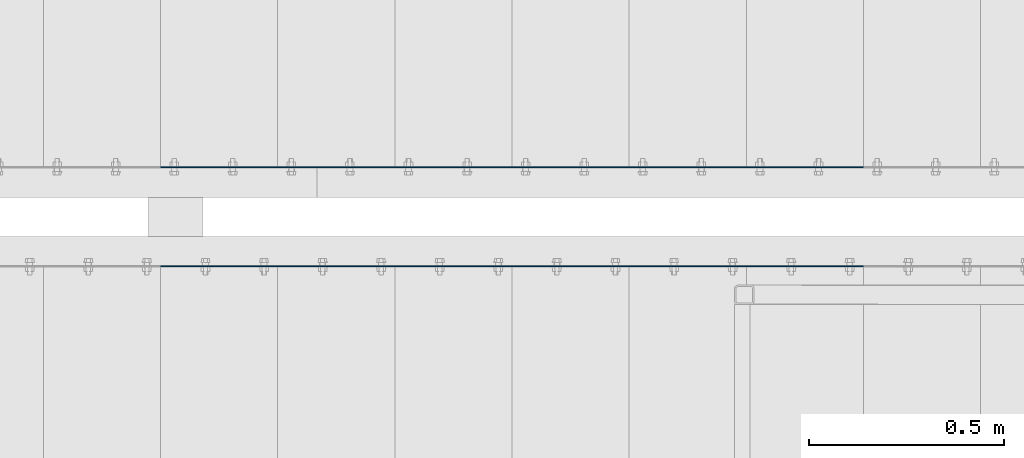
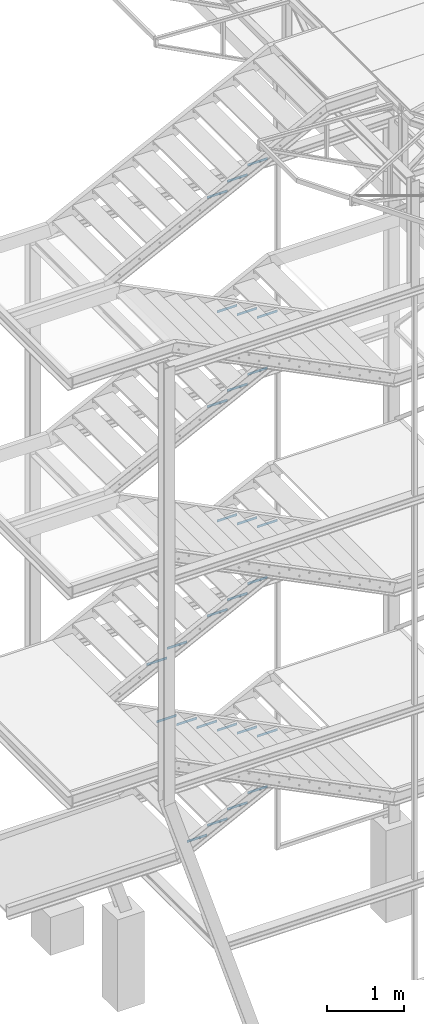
# One storey, part 65 of 132: 27 discrete accessories, 27 elements without a shape of their own.
"""IFC2X3 building model written with IfcOpenShell, lengths in millimetres."""

from ifc_helpers import new_model, si_unit, frame, origin_with_axes, origin_2d_with_axis, place, context, subcontext, project, spatial, rectangle, extrude, material, type_object, element, aggregate, save


model = new_model("IFC2X3")

# Units and contexts
model_context = context("Model", 3, precision=1e-05, world=origin_with_axes())
body_context = subcontext(model_context, "Body", "Model", "MODEL_VIEW")
ifc_project = project(units=[si_unit("LENGTHUNIT", "METRE", prefix="MILLI"), si_unit("AREAUNIT", "SQUARE_METRE"), si_unit("VOLUMEUNIT", "CUBIC_METRE"), si_unit("MASSUNIT", "GRAM", prefix="KILO"), si_unit("TIMEUNIT", "SECOND"), si_unit("PLANEANGLEUNIT", "RADIAN"), si_unit("SOLIDANGLEUNIT", "STERADIAN"), si_unit("THERMODYNAMICTEMPERATUREUNIT", "DEGREE_CELSIUS"), si_unit("LUMINOUSINTENSITYUNIT", "LUMEN")], contexts=[model_context])

# Site, building, storey
site_placement = place(None, origin_with_axes())
site = spatial("IfcSite", under=ifc_project, at=site_placement, Name="Budowa", CompositionType="ELEMENT")
building_placement = place(site_placement, origin_with_axes())
building = spatial("IfcBuilding", under=site, at=building_placement, Name="Undefined", CompositionType="ELEMENT")
storey_placement = place(building_placement, origin_with_axes())
storey = spatial("IfcBuildingStorey", under=building, at=storey_placement, Name="Undefined", CompositionType="ELEMENT", Elevation=0.0)

# Assembly, discrete accessory
assembly_1_placement = place(storey_placement, origin_with_axes())
assembly_1 = element("IfcElementAssembly", 1, at=assembly_1_placement, inside=storey, Name="Steel Assembly", AssemblyPlace="NOTDEFINED", PredefinedType="RIGID_FRAME")
ifc_material = material(Name="STEEL/S235JR")
discrete_accessory_type = type_object("IfcDiscreteAccessoryType", Name="ANGLE")
discrete_accessory_1_placement = place(assembly_1_placement, frame((-1720.00000008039, 9526.5000000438, 13379.9999999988), z_axis=(0.0, 1.0, 0.0), x_axis=(-1.0, 0.0, 0.0)))
discrete_accessory_1 = element("IfcDiscreteAccessory", 2, at=discrete_accessory_1_placement, type_object=discrete_accessory_type, material=ifc_material, Name="ANGLE", ObjectType="3*40", context=body_context, shape_type="SweptSolid", body=[
    extrude(rectangle(XDim=40.0, YDim=3.0, at=origin_2d_with_axis()), frame((300.0, 0.0, 0.0), z_axis=(-1.0, 0.0, 0.0), x_axis=(0.0, -1.0, 0.0)), (0.0, 0.0, 1.0), 300.0),
])
aggregate(assembly_1, [discrete_accessory_1])

assembly_2_placement = place(storey_placement, origin_with_axes())
assembly_2 = element("IfcElementAssembly", 3, at=assembly_2_placement, inside=storey, Name="Steel Assembly", AssemblyPlace="NOTDEFINED", PredefinedType="RIGID_FRAME")
discrete_accessory_2_placement = place(assembly_2_placement, frame((-2020.00000008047, 9526.5000000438, 13229.9999999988), z_axis=(0.0, 1.0, 0.0), x_axis=(-1.0, 0.0, 0.0)))
discrete_accessory_2 = element("IfcDiscreteAccessory", 4, at=discrete_accessory_2_placement, type_object=discrete_accessory_type, material=ifc_material, Name="ANGLE", ObjectType="3*40", context=body_context, shape_type="SweptSolid", body=[
    extrude(rectangle(XDim=40.0, YDim=3.0, at=origin_2d_with_axis()), frame((300.0, 0.0, 0.0), z_axis=(-1.0, 0.0, 0.0), x_axis=(0.0, -1.0, 0.0)), (0.0, 0.0, 1.0), 300.0),
])
aggregate(assembly_2, [discrete_accessory_2])

assembly_3_placement = place(storey_placement, origin_with_axes())
assembly_3 = element("IfcElementAssembly", 5, at=assembly_3_placement, inside=storey, Name="Steel Assembly", AssemblyPlace="NOTDEFINED", PredefinedType="RIGID_FRAME")
discrete_accessory_3_placement = place(assembly_3_placement, frame((-2320.00000008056, 9526.5000000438, 13079.9999999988), z_axis=(0.0, 1.0, 0.0), x_axis=(-1.0, 0.0, 0.0)))
discrete_accessory_3 = element("IfcDiscreteAccessory", 6, at=discrete_accessory_3_placement, type_object=discrete_accessory_type, material=ifc_material, Name="ANGLE", ObjectType="3*40", context=body_context, shape_type="SweptSolid", body=[
    extrude(rectangle(XDim=40.0, YDim=3.0, at=origin_2d_with_axis()), frame((300.0, 0.0, 0.0), z_axis=(-1.0, 0.0, 0.0), x_axis=(0.0, -1.0, 0.0)), (0.0, 0.0, 1.0), 300.0),
])
aggregate(assembly_3, [discrete_accessory_3])

assembly_4_placement = place(storey_placement, origin_with_axes())
assembly_4 = element("IfcElementAssembly", 7, at=assembly_4_placement, inside=storey, Name="Steel Assembly", AssemblyPlace="NOTDEFINED", PredefinedType="RIGID_FRAME")
discrete_accessory_4_placement = place(assembly_4_placement, frame((-2620.00000007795, 9273.50000004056, 11430.0000000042), z_axis=(0.0, -1.0, 0.0), x_axis=(1.0, 0.0, 0.0)))
discrete_accessory_4 = element("IfcDiscreteAccessory", 8, at=discrete_accessory_4_placement, type_object=discrete_accessory_type, material=ifc_material, Name="ANGLE", ObjectType="3*40", context=body_context, shape_type="SweptSolid", body=[
    extrude(rectangle(XDim=40.0, YDim=3.0, at=origin_2d_with_axis()), frame((300.0, 0.0, 0.0), z_axis=(-1.0, 0.0, 0.0), x_axis=(0.0, -1.0, 0.0)), (0.0, 0.0, 1.0), 300.0),
])
aggregate(assembly_4, [discrete_accessory_4])

assembly_5_placement = place(storey_placement, origin_with_axes())
assembly_5 = element("IfcElementAssembly", 9, at=assembly_5_placement, inside=storey, Name="Steel Assembly", AssemblyPlace="NOTDEFINED", PredefinedType="RIGID_FRAME")
discrete_accessory_5_placement = place(assembly_5_placement, frame((-2320.00000007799, 9273.50000004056, 11280.000000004), z_axis=(0.0, -1.0, 0.0), x_axis=(1.0, 0.0, 0.0)))
discrete_accessory_5 = element("IfcDiscreteAccessory", 10, at=discrete_accessory_5_placement, type_object=discrete_accessory_type, material=ifc_material, Name="ANGLE", ObjectType="3*40", context=body_context, shape_type="SweptSolid", body=[
    extrude(rectangle(XDim=40.0, YDim=3.0, at=origin_2d_with_axis()), frame((300.0, 0.0, 0.0), z_axis=(-1.0, 0.0, 0.0), x_axis=(0.0, -1.0, 0.0)), (0.0, 0.0, 1.0), 300.0),
])
aggregate(assembly_5, [discrete_accessory_5])

assembly_6_placement = place(storey_placement, origin_with_axes())
assembly_6 = element("IfcElementAssembly", 11, at=assembly_6_placement, inside=storey, Name="Steel Assembly", AssemblyPlace="NOTDEFINED", PredefinedType="RIGID_FRAME")
discrete_accessory_6_placement = place(assembly_6_placement, frame((-2020.00000007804, 9273.50000004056, 11130.0000000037), z_axis=(0.0, -1.0, 0.0), x_axis=(1.0, 0.0, 0.0)))
discrete_accessory_6 = element("IfcDiscreteAccessory", 12, at=discrete_accessory_6_placement, type_object=discrete_accessory_type, material=ifc_material, Name="ANGLE", ObjectType="3*40", context=body_context, shape_type="SweptSolid", body=[
    extrude(rectangle(XDim=40.0, YDim=3.0, at=origin_2d_with_axis()), frame((300.0, 0.0, 0.0), z_axis=(-1.0, 0.0, 0.0), x_axis=(0.0, -1.0, 0.0)), (0.0, 0.0, 1.0), 300.0),
])
aggregate(assembly_6, [discrete_accessory_6])

assembly_7_placement = place(storey_placement, origin_with_axes())
assembly_7 = element("IfcElementAssembly", 13, at=assembly_7_placement, inside=storey, Name="Steel Assembly", AssemblyPlace="NOTDEFINED", PredefinedType="RIGID_FRAME")
discrete_accessory_7_placement = place(assembly_7_placement, frame((-1720.00000008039, 9526.5000000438, 10079.9999999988), z_axis=(0.0, 1.0, 0.0), x_axis=(-1.0, 0.0, 0.0)))
discrete_accessory_7 = element("IfcDiscreteAccessory", 14, at=discrete_accessory_7_placement, type_object=discrete_accessory_type, material=ifc_material, Name="ANGLE", ObjectType="3*40", context=body_context, shape_type="SweptSolid", body=[
    extrude(rectangle(XDim=40.0, YDim=3.0, at=origin_2d_with_axis()), frame((300.0, 0.0, 0.0), z_axis=(-1.0, 0.0, 0.0), x_axis=(0.0, -1.0, 0.0)), (0.0, 0.0, 1.0), 300.0),
])
aggregate(assembly_7, [discrete_accessory_7])

assembly_8_placement = place(storey_placement, origin_with_axes())
assembly_8 = element("IfcElementAssembly", 15, at=assembly_8_placement, inside=storey, Name="Steel Assembly", AssemblyPlace="NOTDEFINED", PredefinedType="RIGID_FRAME")
discrete_accessory_8_placement = place(assembly_8_placement, frame((-2020.00000008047, 9526.5000000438, 9929.99999999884), z_axis=(0.0, 1.0, 0.0), x_axis=(-1.0, 0.0, 0.0)))
discrete_accessory_8 = element("IfcDiscreteAccessory", 16, at=discrete_accessory_8_placement, type_object=discrete_accessory_type, material=ifc_material, Name="ANGLE", ObjectType="3*40", context=body_context, shape_type="SweptSolid", body=[
    extrude(rectangle(XDim=40.0, YDim=3.0, at=origin_2d_with_axis()), frame((300.0, 0.0, 0.0), z_axis=(-1.0, 0.0, 0.0), x_axis=(0.0, -1.0, 0.0)), (0.0, 0.0, 1.0), 300.0),
])
aggregate(assembly_8, [discrete_accessory_8])

assembly_9_placement = place(storey_placement, origin_with_axes())
assembly_9 = element("IfcElementAssembly", 17, at=assembly_9_placement, inside=storey, Name="Steel Assembly", AssemblyPlace="NOTDEFINED", PredefinedType="RIGID_FRAME")
discrete_accessory_9_placement = place(assembly_9_placement, frame((-2320.00000008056, 9526.5000000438, 9779.99999999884), z_axis=(0.0, 1.0, 0.0), x_axis=(-1.0, 0.0, 0.0)))
discrete_accessory_9 = element("IfcDiscreteAccessory", 18, at=discrete_accessory_9_placement, type_object=discrete_accessory_type, material=ifc_material, Name="ANGLE", ObjectType="3*40", context=body_context, shape_type="SweptSolid", body=[
    extrude(rectangle(XDim=40.0, YDim=3.0, at=origin_2d_with_axis()), frame((300.0, 0.0, 0.0), z_axis=(-1.0, 0.0, 0.0), x_axis=(0.0, -1.0, 0.0)), (0.0, 0.0, 1.0), 300.0),
])
aggregate(assembly_9, [discrete_accessory_9])

assembly_10_placement = place(storey_placement, origin_with_axes())
assembly_10 = element("IfcElementAssembly", 19, at=assembly_10_placement, inside=storey, Name="Steel Assembly", AssemblyPlace="NOTDEFINED", PredefinedType="RIGID_FRAME")
discrete_accessory_10_placement = place(assembly_10_placement, frame((-2620.00000007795, 9273.50000004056, 8130.00000000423), z_axis=(0.0, -1.0, 0.0), x_axis=(1.0, 0.0, 0.0)))
discrete_accessory_10 = element("IfcDiscreteAccessory", 20, at=discrete_accessory_10_placement, type_object=discrete_accessory_type, material=ifc_material, Name="ANGLE", ObjectType="3*40", context=body_context, shape_type="SweptSolid", body=[
    extrude(rectangle(XDim=40.0, YDim=3.0, at=origin_2d_with_axis()), frame((300.0, 0.0, 0.0), z_axis=(-1.0, 0.0, 0.0), x_axis=(0.0, -1.0, 0.0)), (0.0, 0.0, 1.0), 300.0),
])
aggregate(assembly_10, [discrete_accessory_10])

assembly_11_placement = place(storey_placement, origin_with_axes())
assembly_11 = element("IfcElementAssembly", 21, at=assembly_11_placement, inside=storey, Name="Steel Assembly", AssemblyPlace="NOTDEFINED", PredefinedType="RIGID_FRAME")
discrete_accessory_11_placement = place(assembly_11_placement, frame((-2320.00000007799, 9273.50000004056, 7980.00000000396), z_axis=(0.0, -1.0, 0.0), x_axis=(1.0, 0.0, 0.0)))
discrete_accessory_11 = element("IfcDiscreteAccessory", 22, at=discrete_accessory_11_placement, type_object=discrete_accessory_type, material=ifc_material, Name="ANGLE", ObjectType="3*40", context=body_context, shape_type="SweptSolid", body=[
    extrude(rectangle(XDim=40.0, YDim=3.0, at=origin_2d_with_axis()), frame((300.0, 0.0, 0.0), z_axis=(-1.0, 0.0, 0.0), x_axis=(0.0, -1.0, 0.0)), (0.0, 0.0, 1.0), 300.0),
])
aggregate(assembly_11, [discrete_accessory_11])

assembly_12_placement = place(storey_placement, origin_with_axes())
assembly_12 = element("IfcElementAssembly", 23, at=assembly_12_placement, inside=storey, Name="Steel Assembly", AssemblyPlace="NOTDEFINED", PredefinedType="RIGID_FRAME")
discrete_accessory_12_placement = place(assembly_12_placement, frame((-2020.00000007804, 9273.50000004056, 7830.00000000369), z_axis=(0.0, -1.0, 0.0), x_axis=(1.0, 0.0, 0.0)))
discrete_accessory_12 = element("IfcDiscreteAccessory", 24, at=discrete_accessory_12_placement, type_object=discrete_accessory_type, material=ifc_material, Name="ANGLE", ObjectType="3*40", context=body_context, shape_type="SweptSolid", body=[
    extrude(rectangle(XDim=40.0, YDim=3.0, at=origin_2d_with_axis()), frame((300.0, 0.0, 0.0), z_axis=(-1.0, 0.0, 0.0), x_axis=(0.0, -1.0, 0.0)), (0.0, 0.0, 1.0), 300.0),
])
aggregate(assembly_12, [discrete_accessory_12])

assembly_13_placement = place(storey_placement, origin_with_axes())
assembly_13 = element("IfcElementAssembly", 25, at=assembly_13_placement, inside=storey, Name="Steel Assembly", AssemblyPlace="NOTDEFINED", PredefinedType="RIGID_FRAME")
discrete_accessory_13_placement = place(assembly_13_placement, frame((-1720.00000008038, 9526.5000000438, 6779.99999999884), z_axis=(0.0, 1.0, 0.0), x_axis=(-1.0, 0.0, 0.0)))
discrete_accessory_13 = element("IfcDiscreteAccessory", 26, at=discrete_accessory_13_placement, type_object=discrete_accessory_type, material=ifc_material, Name="ANGLE", ObjectType="3*40", context=body_context, shape_type="SweptSolid", body=[
    extrude(rectangle(XDim=40.0, YDim=3.0, at=origin_2d_with_axis()), frame((300.0, 0.0, 0.0), z_axis=(-1.0, 0.0, 0.0), x_axis=(0.0, -1.0, 0.0)), (0.0, 0.0, 1.0), 300.0),
])
aggregate(assembly_13, [discrete_accessory_13])

assembly_14_placement = place(storey_placement, origin_with_axes())
assembly_14 = element("IfcElementAssembly", 27, at=assembly_14_placement, inside=storey, Name="Steel Assembly", AssemblyPlace="NOTDEFINED", PredefinedType="RIGID_FRAME")
discrete_accessory_14_placement = place(assembly_14_placement, frame((-2020.00000008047, 9526.5000000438, 6629.99999999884), z_axis=(0.0, 1.0, 0.0), x_axis=(-1.0, 0.0, 0.0)))
discrete_accessory_14 = element("IfcDiscreteAccessory", 28, at=discrete_accessory_14_placement, type_object=discrete_accessory_type, material=ifc_material, Name="ANGLE", ObjectType="3*40", context=body_context, shape_type="SweptSolid", body=[
    extrude(rectangle(XDim=40.0, YDim=3.0, at=origin_2d_with_axis()), frame((300.0, 0.0, 0.0), z_axis=(-1.0, 0.0, 0.0), x_axis=(0.0, -1.0, 0.0)), (0.0, 0.0, 1.0), 300.0),
])
aggregate(assembly_14, [discrete_accessory_14])

assembly_15_placement = place(storey_placement, origin_with_axes())
assembly_15 = element("IfcElementAssembly", 29, at=assembly_15_placement, inside=storey, Name="Steel Assembly", AssemblyPlace="NOTDEFINED", PredefinedType="RIGID_FRAME")
discrete_accessory_15_placement = place(assembly_15_placement, frame((-2320.00000008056, 9526.5000000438, 6479.99999999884), z_axis=(0.0, 1.0, 0.0), x_axis=(-1.0, 0.0, 0.0)))
discrete_accessory_15 = element("IfcDiscreteAccessory", 30, at=discrete_accessory_15_placement, type_object=discrete_accessory_type, material=ifc_material, Name="ANGLE", ObjectType="3*40", context=body_context, shape_type="SweptSolid", body=[
    extrude(rectangle(XDim=40.0, YDim=3.0, at=origin_2d_with_axis()), frame((300.0, 0.0, 0.0), z_axis=(-1.0, 0.0, 0.0), x_axis=(0.0, -1.0, 0.0)), (0.0, 0.0, 1.0), 300.0),
])
aggregate(assembly_15, [discrete_accessory_15])

assembly_16_placement = place(storey_placement, origin_with_axes())
assembly_16 = element("IfcElementAssembly", 31, at=assembly_16_placement, inside=storey, Name="Steel Assembly", AssemblyPlace="NOTDEFINED", PredefinedType="RIGID_FRAME")
discrete_accessory_16_placement = place(assembly_16_placement, frame((-2920.00000008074, 9526.5000000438, 6179.99999999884), z_axis=(0.0, 1.0, 0.0), x_axis=(-1.0, 0.0, 0.0)))
discrete_accessory_16 = element("IfcDiscreteAccessory", 32, at=discrete_accessory_16_placement, type_object=discrete_accessory_type, material=ifc_material, Name="ANGLE", ObjectType="3*40", context=body_context, shape_type="SweptSolid", body=[
    extrude(rectangle(XDim=40.0, YDim=3.0, at=origin_2d_with_axis()), frame((300.0, 0.0, 0.0), z_axis=(-1.0, 0.0, 0.0), x_axis=(0.0, -1.0, 0.0)), (0.0, 0.0, 1.0), 300.0),
])
aggregate(assembly_16, [discrete_accessory_16])

assembly_17_placement = place(storey_placement, origin_with_axes())
assembly_17 = element("IfcElementAssembly", 33, at=assembly_17_placement, inside=storey, Name="Steel Assembly", AssemblyPlace="NOTDEFINED", PredefinedType="RIGID_FRAME")
discrete_accessory_17_placement = place(assembly_17_placement, frame((-3220.00000008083, 9526.5000000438, 6029.99999999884), z_axis=(0.0, 1.0, 0.0), x_axis=(-1.0, 0.0, 0.0)))
discrete_accessory_17 = element("IfcDiscreteAccessory", 34, at=discrete_accessory_17_placement, type_object=discrete_accessory_type, material=ifc_material, Name="ANGLE", ObjectType="3*40", context=body_context, shape_type="SweptSolid", body=[
    extrude(rectangle(XDim=40.0, YDim=3.0, at=origin_2d_with_axis()), frame((300.0, 0.0, 0.0), z_axis=(-1.0, 0.0, 0.0), x_axis=(0.0, -1.0, 0.0)), (0.0, 0.0, 1.0), 300.0),
])
aggregate(assembly_17, [discrete_accessory_17])

assembly_18_placement = place(storey_placement, origin_with_axes())
assembly_18 = element("IfcElementAssembly", 35, at=assembly_18_placement, inside=storey, Name="Steel Assembly", AssemblyPlace="NOTDEFINED", PredefinedType="RIGID_FRAME")
discrete_accessory_18_placement = place(assembly_18_placement, frame((-3520.00000007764, 9273.50000004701, 5279.99999999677), z_axis=(0.0, -1.0, 0.0), x_axis=(1.0, 0.0, 0.0)))
discrete_accessory_18 = element("IfcDiscreteAccessory", 36, at=discrete_accessory_18_placement, type_object=discrete_accessory_type, material=ifc_material, Name="ANGLE", ObjectType="3*40", context=body_context, shape_type="SweptSolid", body=[
    extrude(rectangle(XDim=40.0, YDim=3.0, at=origin_2d_with_axis()), frame((300.0, 0.0, 0.0), z_axis=(-1.0, 0.0, 0.0), x_axis=(0.0, -1.0, 0.0)), (0.0, 0.0, 1.0), 300.0),
])
aggregate(assembly_18, [discrete_accessory_18])

assembly_19_placement = place(storey_placement, origin_with_axes())
assembly_19 = element("IfcElementAssembly", 37, at=assembly_19_placement, inside=storey, Name="Steel Assembly", AssemblyPlace="NOTDEFINED", PredefinedType="RIGID_FRAME")
discrete_accessory_19_placement = place(assembly_19_placement, frame((-3220.00000007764, 9273.50000004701, 5129.99999999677), z_axis=(0.0, -1.0, 0.0), x_axis=(1.0, 0.0, 0.0)))
discrete_accessory_19 = element("IfcDiscreteAccessory", 38, at=discrete_accessory_19_placement, type_object=discrete_accessory_type, material=ifc_material, Name="ANGLE", ObjectType="3*40", context=body_context, shape_type="SweptSolid", body=[
    extrude(rectangle(XDim=40.0, YDim=3.0, at=origin_2d_with_axis()), frame((300.0, 0.0, 0.0), z_axis=(-1.0, 0.0, 0.0), x_axis=(0.0, -1.0, 0.0)), (0.0, 0.0, 1.0), 300.0),
])
aggregate(assembly_19, [discrete_accessory_19])

assembly_20_placement = place(storey_placement, origin_with_axes())
assembly_20 = element("IfcElementAssembly", 39, at=assembly_20_placement, inside=storey, Name="Steel Assembly", AssemblyPlace="NOTDEFINED", PredefinedType="RIGID_FRAME")
discrete_accessory_20_placement = place(assembly_20_placement, frame((-2920.00000007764, 9273.50000004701, 4979.99999999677), z_axis=(0.0, -1.0, 0.0), x_axis=(1.0, 0.0, 0.0)))
discrete_accessory_20 = element("IfcDiscreteAccessory", 40, at=discrete_accessory_20_placement, type_object=discrete_accessory_type, material=ifc_material, Name="ANGLE", ObjectType="3*40", context=body_context, shape_type="SweptSolid", body=[
    extrude(rectangle(XDim=40.0, YDim=3.0, at=origin_2d_with_axis()), frame((300.0, 0.0, 0.0), z_axis=(-1.0, 0.0, 0.0), x_axis=(0.0, -1.0, 0.0)), (0.0, 0.0, 1.0), 300.0),
])
aggregate(assembly_20, [discrete_accessory_20])

assembly_21_placement = place(storey_placement, origin_with_axes())
assembly_21 = element("IfcElementAssembly", 41, at=assembly_21_placement, inside=storey, Name="Steel Assembly", AssemblyPlace="NOTDEFINED", PredefinedType="RIGID_FRAME")
discrete_accessory_21_placement = place(assembly_21_placement, frame((-2620.00000007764, 9273.50000004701, 4829.99999999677), z_axis=(0.0, -1.0, 0.0), x_axis=(1.0, 0.0, 0.0)))
discrete_accessory_21 = element("IfcDiscreteAccessory", 42, at=discrete_accessory_21_placement, type_object=discrete_accessory_type, material=ifc_material, Name="ANGLE", ObjectType="3*40", context=body_context, shape_type="SweptSolid", body=[
    extrude(rectangle(XDim=40.0, YDim=3.0, at=origin_2d_with_axis()), frame((300.0, 0.0, 0.0), z_axis=(-1.0, 0.0, 0.0), x_axis=(0.0, -1.0, 0.0)), (0.0, 0.0, 1.0), 300.0),
])
aggregate(assembly_21, [discrete_accessory_21])

assembly_22_placement = place(storey_placement, origin_with_axes())
assembly_22 = element("IfcElementAssembly", 43, at=assembly_22_placement, inside=storey, Name="Steel Assembly", AssemblyPlace="NOTDEFINED", PredefinedType="RIGID_FRAME")
discrete_accessory_22_placement = place(assembly_22_placement, frame((-2320.00000007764, 9273.50000004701, 4679.99999999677), z_axis=(0.0, -1.0, 0.0), x_axis=(1.0, 0.0, 0.0)))
discrete_accessory_22 = element("IfcDiscreteAccessory", 44, at=discrete_accessory_22_placement, type_object=discrete_accessory_type, material=ifc_material, Name="ANGLE", ObjectType="3*40", context=body_context, shape_type="SweptSolid", body=[
    extrude(rectangle(XDim=40.0, YDim=3.0, at=origin_2d_with_axis()), frame((300.0, 0.0, 0.0), z_axis=(-1.0, 0.0, 0.0), x_axis=(0.0, -1.0, 0.0)), (0.0, 0.0, 1.0), 300.0),
])
aggregate(assembly_22, [discrete_accessory_22])

assembly_23_placement = place(storey_placement, origin_with_axes())
assembly_23 = element("IfcElementAssembly", 45, at=assembly_23_placement, inside=storey, Name="Steel Assembly", AssemblyPlace="NOTDEFINED", PredefinedType="RIGID_FRAME")
discrete_accessory_23_placement = place(assembly_23_placement, frame((-2020.00000007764, 9273.50000004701, 4529.99999999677), z_axis=(0.0, -1.0, 0.0), x_axis=(1.0, 0.0, 0.0)))
discrete_accessory_23 = element("IfcDiscreteAccessory", 46, at=discrete_accessory_23_placement, type_object=discrete_accessory_type, material=ifc_material, Name="ANGLE", ObjectType="3*40", context=body_context, shape_type="SweptSolid", body=[
    extrude(rectangle(XDim=40.0, YDim=3.0, at=origin_2d_with_axis()), frame((300.0, 0.0, 0.0), z_axis=(-1.0, 0.0, 0.0), x_axis=(0.0, -1.0, 0.0)), (0.0, 0.0, 1.0), 300.0),
])
aggregate(assembly_23, [discrete_accessory_23])

assembly_24_placement = place(storey_placement, origin_with_axes())
assembly_24 = element("IfcElementAssembly", 47, at=assembly_24_placement, inside=storey, Name="Steel Assembly", AssemblyPlace="NOTDEFINED", PredefinedType="RIGID_FRAME")
discrete_accessory_24_placement = place(assembly_24_placement, frame((-1720.00000008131, 9526.50000004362, 3479.99999999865), z_axis=(0.0, 1.0, 0.0), x_axis=(-1.0, 0.0, 0.0)))
discrete_accessory_24 = element("IfcDiscreteAccessory", 48, at=discrete_accessory_24_placement, type_object=discrete_accessory_type, material=ifc_material, Name="ANGLE", ObjectType="3*40", context=body_context, shape_type="SweptSolid", body=[
    extrude(rectangle(XDim=40.0, YDim=3.0, at=origin_2d_with_axis()), frame((300.0, 0.0, 0.0), z_axis=(-1.0, 0.0, 0.0), x_axis=(0.0, -1.0, 0.0)), (0.0, 0.0, 1.0), 300.0),
])
aggregate(assembly_24, [discrete_accessory_24])

assembly_25_placement = place(storey_placement, origin_with_axes())
assembly_25 = element("IfcElementAssembly", 49, at=assembly_25_placement, inside=storey, Name="Steel Assembly", AssemblyPlace="NOTDEFINED", PredefinedType="RIGID_FRAME")
discrete_accessory_25_placement = place(assembly_25_placement, frame((-2020.00000008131, 9526.50000004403, 3329.99999999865), z_axis=(0.0, 1.0, 0.0), x_axis=(-1.0, 0.0, 0.0)))
discrete_accessory_25 = element("IfcDiscreteAccessory", 50, at=discrete_accessory_25_placement, type_object=discrete_accessory_type, material=ifc_material, Name="ANGLE", ObjectType="3*40", context=body_context, shape_type="SweptSolid", body=[
    extrude(rectangle(XDim=40.0, YDim=3.0, at=origin_2d_with_axis()), frame((300.0, 0.0, 0.0), z_axis=(-1.0, 0.0, 0.0), x_axis=(0.0, -1.0, 0.0)), (0.0, 0.0, 1.0), 300.0),
])
aggregate(assembly_25, [discrete_accessory_25])

assembly_26_placement = place(storey_placement, origin_with_axes())
assembly_26 = element("IfcElementAssembly", 51, at=assembly_26_placement, inside=storey, Name="Steel Assembly", AssemblyPlace="NOTDEFINED", PredefinedType="RIGID_FRAME")
discrete_accessory_26_placement = place(assembly_26_placement, frame((-2320.00000008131, 9526.50000004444, 3179.99999999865), z_axis=(0.0, 1.0, 0.0), x_axis=(-1.0, 0.0, 0.0)))
discrete_accessory_26 = element("IfcDiscreteAccessory", 52, at=discrete_accessory_26_placement, type_object=discrete_accessory_type, material=ifc_material, Name="ANGLE", ObjectType="3*40", context=body_context, shape_type="SweptSolid", body=[
    extrude(rectangle(XDim=40.0, YDim=3.0, at=origin_2d_with_axis()), frame((300.0, 0.0, 0.0), z_axis=(-1.0, 0.0, 0.0), x_axis=(0.0, -1.0, 0.0)), (0.0, 0.0, 1.0), 300.0),
])
aggregate(assembly_26, [discrete_accessory_26])

assembly_27_placement = place(storey_placement, origin_with_axes())
assembly_27 = element("IfcElementAssembly", 53, at=assembly_27_placement, inside=storey, Name="Steel Assembly", AssemblyPlace="NOTDEFINED", PredefinedType="RIGID_FRAME")
discrete_accessory_27_placement = place(assembly_27_placement, frame((-2620.00000008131, 9526.50000004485, 3029.99999999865), z_axis=(0.0, 1.0, 0.0), x_axis=(-1.0, 0.0, 0.0)))
discrete_accessory_27 = element("IfcDiscreteAccessory", 54, at=discrete_accessory_27_placement, type_object=discrete_accessory_type, material=ifc_material, Name="ANGLE", ObjectType="3*40", context=body_context, shape_type="SweptSolid", body=[
    extrude(rectangle(XDim=40.0, YDim=3.0, at=origin_2d_with_axis()), frame((300.0, 0.0, 0.0), z_axis=(-1.0, 0.0, 0.0), x_axis=(0.0, -1.0, 0.0)), (0.0, 0.0, 1.0), 300.0),
])
aggregate(assembly_27, [discrete_accessory_27])

save(model, "model.ifc")
